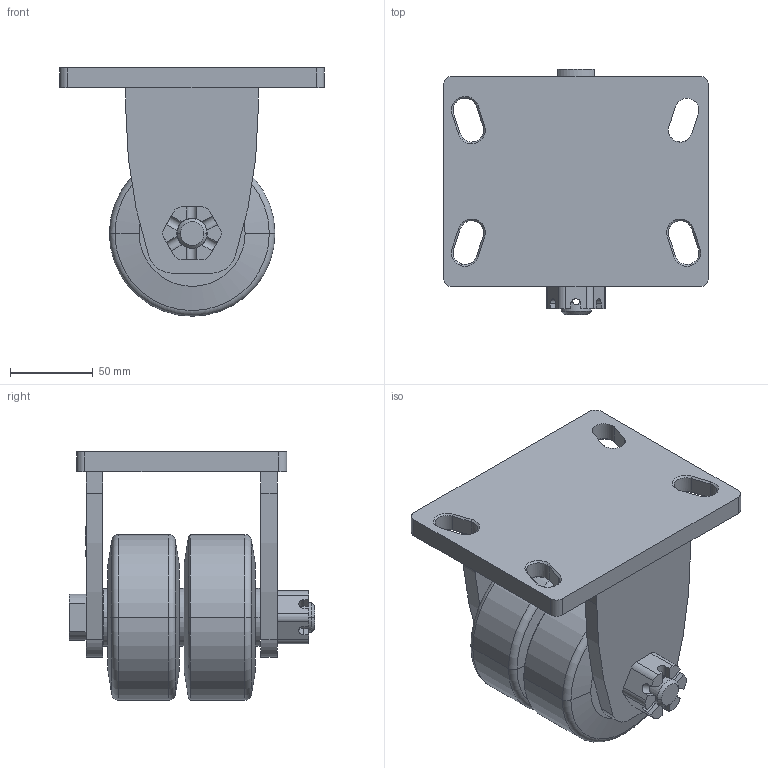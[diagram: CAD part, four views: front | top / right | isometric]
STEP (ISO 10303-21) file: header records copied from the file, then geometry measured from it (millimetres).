
FILE_DESCRIPTION(/* description */ (''),/* implementation_level */ '2;1');
FILE_NAME(/* name */ '40B30_4_F.stp',/* time_stamp */ '2022-08-29T11:06:03+08:00',/* author */ (''),/* organization */ (''),/* preprocessor_version */ 'ST-DEVELOPER v14',/* originating_system */ 'SIEMENS PLM Software NX 8.0',/* authorisation */ '');
FILE_SCHEMA (('AUTOMOTIVE_DESIGN { 1 0 10303 214 3 1 1 1 }'));
Length unit declared in the file: millimetre
Products named in the file (1): 40B30_4_F
Bounding box: 160 x 148 x 150 mm (x, y, z)
Volume: 1053919 mm3; surface area: 152409 mm2
Topology: 1 solids, 1 shells, 360 faces, 999 edges, 668 vertices
Faces by surface type: plane 239, cylinder 89, cone 24, torus 8
Entity records: 12117 total; most frequent: CARTESIAN_POINT 3078, ORIENTED_EDGE 1998, DIRECTION 1723, EDGE_CURVE 999, VERTEX_POINT 668, AXIS2_PLACEMENT_3D 621, LINE 481, VECTOR 481
